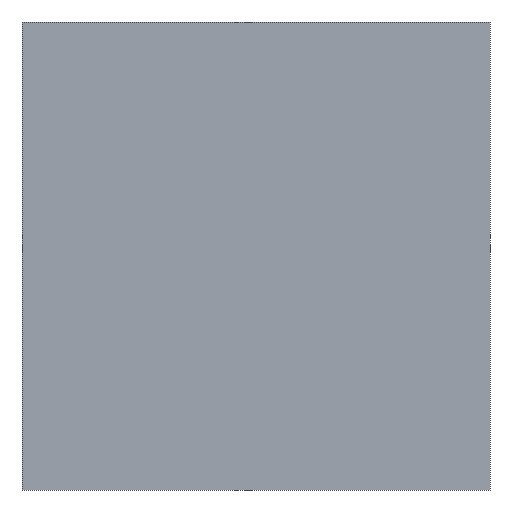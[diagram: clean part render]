
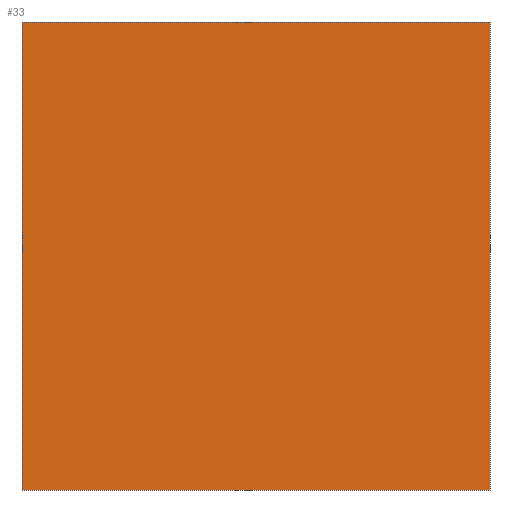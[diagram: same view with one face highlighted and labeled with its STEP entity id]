
A CAD part, front view. The second image highlights one B-rep face of the part: STEP entity #33.
In plain terms, the highlighted planar face has unit normal (0, -1, 0).
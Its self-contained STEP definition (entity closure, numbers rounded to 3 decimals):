
#1 = LINE ( 'NONE', #156, #485 ) ;
#7 = LINE ( 'NONE', #361, #265 ) ;
#22 = VERTEX_POINT ( 'NONE', #225 ) ;
#27 = EDGE_CURVE ( 'NONE', #208, #22, #145, .T. ) ;
#30 = DIRECTION ( 'NONE',  ( 1., 0., 0. ) ) ;
#33 = ADVANCED_FACE ( 'NONE', ( #380 ), #502, .T. ) ;
#84 = LINE ( 'NONE', #207, #310 ) ;
#93 = ORIENTED_EDGE ( 'NONE', *, *, #507, .F. ) ;
#108 = DIRECTION ( 'NONE',  ( 0., -1., 0. ) ) ;
#145 = LINE ( 'NONE', #339, #158 ) ;
#156 = CARTESIAN_POINT ( 'NONE',  ( -55., 68., 55. ) ) ;
#158 = VECTOR ( 'NONE', #30, 1000. ) ;
#171 = VERTEX_POINT ( 'NONE', #376 ) ;
#202 = DIRECTION ( 'NONE',  ( -1., 0., 0. ) ) ;
#207 = CARTESIAN_POINT ( 'NONE',  ( -55., 68., -55. ) ) ;
#208 = VERTEX_POINT ( 'NONE', #262 ) ;
#225 = CARTESIAN_POINT ( 'NONE',  ( 55., 68., 55. ) ) ;
#243 = VERTEX_POINT ( 'NONE', #307 ) ;
#261 = ORIENTED_EDGE ( 'NONE', *, *, #349, .F. ) ;
#262 = CARTESIAN_POINT ( 'NONE',  ( -55., 68., 55. ) ) ;
#265 = VECTOR ( 'NONE', #473, 1000. ) ;
#281 = EDGE_LOOP ( 'NONE', ( #324, #261, #320, #93 ) ) ;
#307 = CARTESIAN_POINT ( 'NONE',  ( -55., 68., -55. ) ) ;
#310 = VECTOR ( 'NONE', #202, 1000. ) ;
#320 = ORIENTED_EDGE ( 'NONE', *, *, #499, .F. ) ;
#324 = ORIENTED_EDGE ( 'NONE', *, *, #27, .F. ) ;
#329 = DIRECTION ( 'NONE',  ( 0., 0., 1. ) ) ;
#339 = CARTESIAN_POINT ( 'NONE',  ( 55., 68., 55. ) ) ;
#349 = EDGE_CURVE ( 'NONE', #243, #208, #1, .T. ) ;
#361 = CARTESIAN_POINT ( 'NONE',  ( 55., 68., -55. ) ) ;
#376 = CARTESIAN_POINT ( 'NONE',  ( 55., 68., -55. ) ) ;
#380 = FACE_OUTER_BOUND ( 'NONE', #281, .T. ) ;
#419 = DIRECTION ( 'NONE',  ( 1., 0., 0. ) ) ;
#459 = CARTESIAN_POINT ( 'NONE',  ( -55., 68., -55. ) ) ;
#473 = DIRECTION ( 'NONE',  ( 0., 0., -1. ) ) ;
#476 = AXIS2_PLACEMENT_3D ( 'NONE', #459, #108, #419 ) ;
#485 = VECTOR ( 'NONE', #329, 1000. ) ;
#499 = EDGE_CURVE ( 'NONE', #171, #243, #84, .T. ) ;
#502 = PLANE ( 'NONE',  #476 ) ;
#507 = EDGE_CURVE ( 'NONE', #22, #171, #7, .T. ) ;
